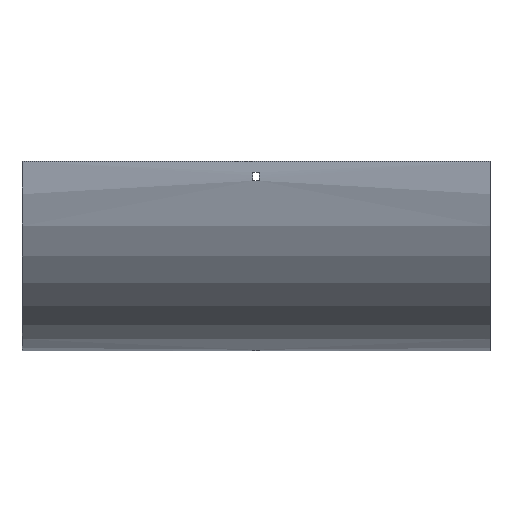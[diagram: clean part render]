
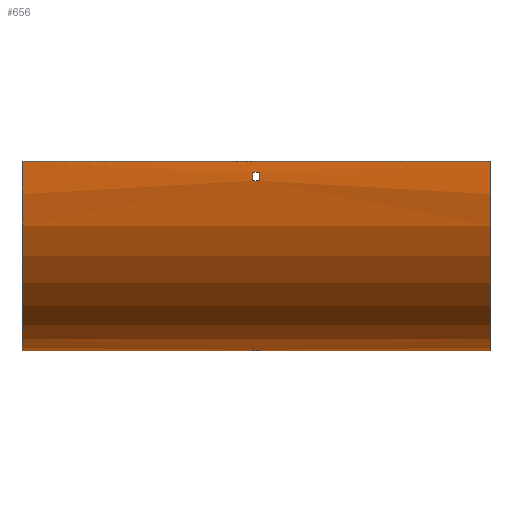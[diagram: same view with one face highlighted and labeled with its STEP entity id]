
A CAD part, front view. The second image highlights one B-rep face of the part: STEP entity #656.
In plain terms, the highlighted cylindrical face has radius 204 mm (diameter 408 mm), a partial arc.
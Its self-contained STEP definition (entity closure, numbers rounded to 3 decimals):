
#5 = EDGE_CURVE ( 'NONE', #455, #277, #57, .T. ) ;
#30 = CARTESIAN_POINT ( 'NONE',  ( 3.25, -102.916, -21. ) ) ;
#37 = AXIS2_PLACEMENT_3D ( 'NONE', #1478, #806, #148 ) ;
#39 = DIRECTION ( 'NONE',  ( 0., 0., 1. ) ) ;
#56 = FACE_OUTER_BOUND ( 'NONE', #706, .T. ) ;
#57 = LINE ( 'NONE', #1220, #697 ) ;
#69 = ORIENTED_EDGE ( 'NONE', *, *, #5, .T. ) ;
#73 = DIRECTION ( 'NONE',  ( -1., 0., 0. ) ) ;
#86 = DIRECTION ( 'NONE',  ( -1., 0., 0. ) ) ;
#87 = CARTESIAN_POINT ( 'NONE',  ( -3.25, 100., 0. ) ) ;
#92 = VECTOR ( 'NONE', #1161, 1000. ) ;
#126 = CARTESIAN_POINT ( 'NONE',  ( 252., 79., -202.916 ) ) ;
#148 = DIRECTION ( 'NONE',  ( 0., 0., -1. ) ) ;
#156 = VERTEX_POINT ( 'NONE', #1153 ) ;
#158 = CIRCLE ( 'NONE', #1115, 204. ) ;
#172 = VERTEX_POINT ( 'NONE', #251 ) ;
#186 = CARTESIAN_POINT ( 'NONE',  ( 3.25, 79., -202.916 ) ) ;
#194 = LINE ( 'NONE', #924, #1479 ) ;
#203 = VERTEX_POINT ( 'NONE', #1289 ) ;
#209 = EDGE_CURVE ( 'NONE', #1449, #172, #418, .T. ) ;
#228 = VERTEX_POINT ( 'NONE', #902 ) ;
#251 = CARTESIAN_POINT ( 'NONE',  ( -252., 100., -204. ) ) ;
#262 = EDGE_CURVE ( 'NONE', #1277, #172, #889, .T. ) ;
#277 = VERTEX_POINT ( 'NONE', #359 ) ;
#285 = DIRECTION ( 'NONE',  ( 1., 0., 0. ) ) ;
#314 = DIRECTION ( 'NONE',  ( 0., 0., 1. ) ) ;
#320 = AXIS2_PLACEMENT_3D ( 'NONE', #652, #285, #1170 ) ;
#327 = CARTESIAN_POINT ( 'NONE',  ( 252., 100., 0. ) ) ;
#328 = DIRECTION ( 'NONE',  ( -1., 0., 0. ) ) ;
#338 = DIRECTION ( 'NONE',  ( 1., 0., 0. ) ) ;
#359 = CARTESIAN_POINT ( 'NONE',  ( -3.25, -102.916, -21. ) ) ;
#367 = AXIS2_PLACEMENT_3D ( 'NONE', #460, #489, #1123 ) ;
#371 = EDGE_CURVE ( 'NONE', #228, #872, #513, .T. ) ;
#418 = LINE ( 'NONE', #1448, #92 ) ;
#429 = ORIENTED_EDGE ( 'NONE', *, *, #548, .F. ) ;
#455 = VERTEX_POINT ( 'NONE', #30 ) ;
#460 = CARTESIAN_POINT ( 'NONE',  ( -3.25, 100., 0. ) ) ;
#489 = DIRECTION ( 'NONE',  ( 1., 0., 0. ) ) ;
#509 = EDGE_LOOP ( 'NONE', ( #69, #809, #1314, #607 ) ) ;
#513 = LINE ( 'NONE', #1291, #531 ) ;
#524 = ORIENTED_EDGE ( 'NONE', *, *, #1462, .F. ) ;
#528 = VECTOR ( 'NONE', #759, 1000. ) ;
#531 = VECTOR ( 'NONE', #1156, 1000. ) ;
#548 = EDGE_CURVE ( 'NONE', #203, #1305, #996, .T. ) ;
#580 = CARTESIAN_POINT ( 'NONE',  ( 252., -104., 0. ) ) ;
#607 = ORIENTED_EDGE ( 'NONE', *, *, #1645, .T. ) ;
#615 = DIRECTION ( 'NONE',  ( -1., 0., 0. ) ) ;
#618 = CIRCLE ( 'NONE', #778, 204. ) ;
#623 = ORIENTED_EDGE ( 'NONE', *, *, #1217, .F. ) ;
#652 = CARTESIAN_POINT ( 'NONE',  ( -252., 100., 0. ) ) ;
#656 = ADVANCED_FACE ( 'NONE', ( #56, #864, #829 ), #1112, .T. ) ;
#690 = LINE ( 'NONE', #580, #1412 ) ;
#697 = VECTOR ( 'NONE', #328, 1000. ) ;
#706 = EDGE_LOOP ( 'NONE', ( #1194, #1027, #623, #1095 ) ) ;
#720 = ORIENTED_EDGE ( 'NONE', *, *, #1655, .F. ) ;
#759 = DIRECTION ( 'NONE',  ( -1., 0., 0. ) ) ;
#778 = AXIS2_PLACEMENT_3D ( 'NONE', #87, #615, #1004 ) ;
#795 = DIRECTION ( 'NONE',  ( -1., 0., 0. ) ) ;
#806 = DIRECTION ( 'NONE',  ( 1., 0., 0. ) ) ;
#809 = ORIENTED_EDGE ( 'NONE', *, *, #1063, .T. ) ;
#816 = CARTESIAN_POINT ( 'NONE',  ( -3.25, 79., -202.916 ) ) ;
#829 = FACE_BOUND ( 'NONE', #1126, .T. ) ;
#864 = FACE_BOUND ( 'NONE', #509, .T. ) ;
#872 = VERTEX_POINT ( 'NONE', #1596 ) ;
#889 = CIRCLE ( 'NONE', #320, 204. ) ;
#902 = CARTESIAN_POINT ( 'NONE',  ( -3.25, -103.647, -12. ) ) ;
#924 = CARTESIAN_POINT ( 'NONE',  ( 252., 88., -203.647 ) ) ;
#996 = CIRCLE ( 'NONE', #1454, 204. ) ;
#1004 = DIRECTION ( 'NONE',  ( 0., 0., 1. ) ) ;
#1020 = CIRCLE ( 'NONE', #367, 204. ) ;
#1024 = CIRCLE ( 'NONE', #37, 204. ) ;
#1026 = DIRECTION ( 'NONE',  ( 1., 0., 0. ) ) ;
#1027 = ORIENTED_EDGE ( 'NONE', *, *, #209, .F. ) ;
#1063 = EDGE_CURVE ( 'NONE', #277, #228, #618, .T. ) ;
#1066 = CARTESIAN_POINT ( 'NONE',  ( -252., -104., 0. ) ) ;
#1095 = ORIENTED_EDGE ( 'NONE', *, *, #1623, .T. ) ;
#1112 = CYLINDRICAL_SURFACE ( 'NONE', #1371, 204. ) ;
#1115 = AXIS2_PLACEMENT_3D ( 'NONE', #1621, #338, #1255 ) ;
#1123 = DIRECTION ( 'NONE',  ( 0., 1., 0. ) ) ;
#1126 = EDGE_LOOP ( 'NONE', ( #720, #524, #429, #1646 ) ) ;
#1153 = CARTESIAN_POINT ( 'NONE',  ( 252., -104., 0. ) ) ;
#1156 = DIRECTION ( 'NONE',  ( 1., 0., 0. ) ) ;
#1161 = DIRECTION ( 'NONE',  ( -1., 0., 0. ) ) ;
#1170 = DIRECTION ( 'NONE',  ( 0., 0., -1. ) ) ;
#1194 = ORIENTED_EDGE ( 'NONE', *, *, #262, .T. ) ;
#1217 = EDGE_CURVE ( 'NONE', #156, #1449, #1024, .T. ) ;
#1220 = CARTESIAN_POINT ( 'NONE',  ( 252., -102.916, -21. ) ) ;
#1221 = VERTEX_POINT ( 'NONE', #1354 ) ;
#1255 = DIRECTION ( 'NONE',  ( 0., 0., -1. ) ) ;
#1277 = VERTEX_POINT ( 'NONE', #1066 ) ;
#1289 = CARTESIAN_POINT ( 'NONE',  ( 3.25, 88., -203.647 ) ) ;
#1291 = CARTESIAN_POINT ( 'NONE',  ( 252., -103.647, -12. ) ) ;
#1296 = CARTESIAN_POINT ( 'NONE',  ( 252., 100., -204. ) ) ;
#1301 = LINE ( 'NONE', #126, #528 ) ;
#1305 = VERTEX_POINT ( 'NONE', #186 ) ;
#1314 = ORIENTED_EDGE ( 'NONE', *, *, #371, .T. ) ;
#1339 = CARTESIAN_POINT ( 'NONE',  ( 3.25, 100., 0. ) ) ;
#1344 = EDGE_CURVE ( 'NONE', #1221, #203, #194, .T. ) ;
#1354 = CARTESIAN_POINT ( 'NONE',  ( -3.25, 88., -203.647 ) ) ;
#1371 = AXIS2_PLACEMENT_3D ( 'NONE', #327, #73, #314 ) ;
#1412 = VECTOR ( 'NONE', #86, 1000. ) ;
#1448 = CARTESIAN_POINT ( 'NONE',  ( 252., 100., -204. ) ) ;
#1449 = VERTEX_POINT ( 'NONE', #1296 ) ;
#1454 = AXIS2_PLACEMENT_3D ( 'NONE', #1339, #795, #39 ) ;
#1462 = EDGE_CURVE ( 'NONE', #1305, #1575, #1301, .T. ) ;
#1478 = CARTESIAN_POINT ( 'NONE',  ( 252., 100., 0. ) ) ;
#1479 = VECTOR ( 'NONE', #1026, 1000. ) ;
#1575 = VERTEX_POINT ( 'NONE', #816 ) ;
#1596 = CARTESIAN_POINT ( 'NONE',  ( 3.25, -103.647, -12. ) ) ;
#1621 = CARTESIAN_POINT ( 'NONE',  ( 3.25, 100., 0. ) ) ;
#1623 = EDGE_CURVE ( 'NONE', #156, #1277, #690, .T. ) ;
#1645 = EDGE_CURVE ( 'NONE', #872, #455, #158, .T. ) ;
#1646 = ORIENTED_EDGE ( 'NONE', *, *, #1344, .F. ) ;
#1655 = EDGE_CURVE ( 'NONE', #1575, #1221, #1020, .T. ) ;
